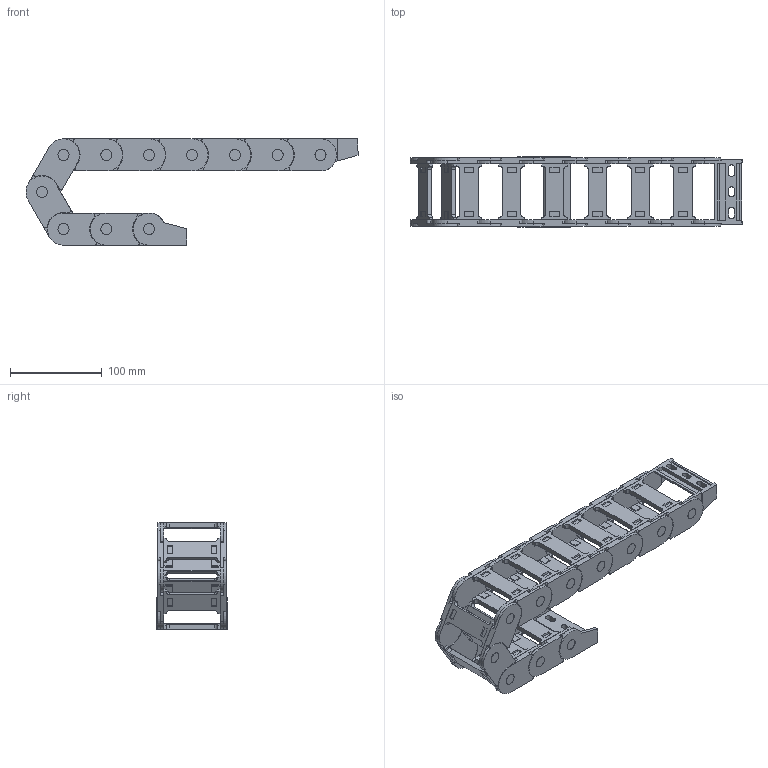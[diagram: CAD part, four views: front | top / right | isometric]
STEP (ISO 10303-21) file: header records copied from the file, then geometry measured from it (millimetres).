
FILE_DESCRIPTION((''),'2;1');
FILE_NAME('QS-25X60-R40_ASM','2022-06-08T09:51:26',('admin'),(''),'CREO PARAMETRIC BY PTC INC, 2021164','CREO PARAMETRIC BY PTC INC, 2021164','');
FILE_SCHEMA(('CONFIG_CONTROL_DESIGN','GEOMETRIC_VALIDATION_PROPERTIES_MIM'));
Length unit declared in the file: millimetre
Products named in the file (7): 25XL-L; 25XL-R; PIAN-25; ASM0001_ASM; 25X60-LTT-1; 25X60-LTT-2; QS-25X60-R40_ASM
Assembly tree (16 placements, depth 3):
  QS-25X60-R40_ASM
    ASM0001_ASM  x10
      25XL-L
      25XL-R
      PIAN-25
    25X60-LTT-1
    25X60-LTT-2
Bounding box: 361.2 x 76.6 x 115.71 mm (x, y, z)
Volume: 380421.5 mm3; surface area: 233153.4 mm2
Topology: 42 solids, 42 shells, 1652 faces, 4706 edges, 3162 vertices
Faces by surface type: plane 1268, cylinder 384
Entity records: 8445 total; most frequent: CARTESIAN_POINT 1339, DIRECTION 1194, ORIENTED_EDGE 1192, EDGE_CURVE 596, VECTOR 464, LINE 464, VERTEX_POINT 404, AXIS2_PLACEMENT_3D 365
